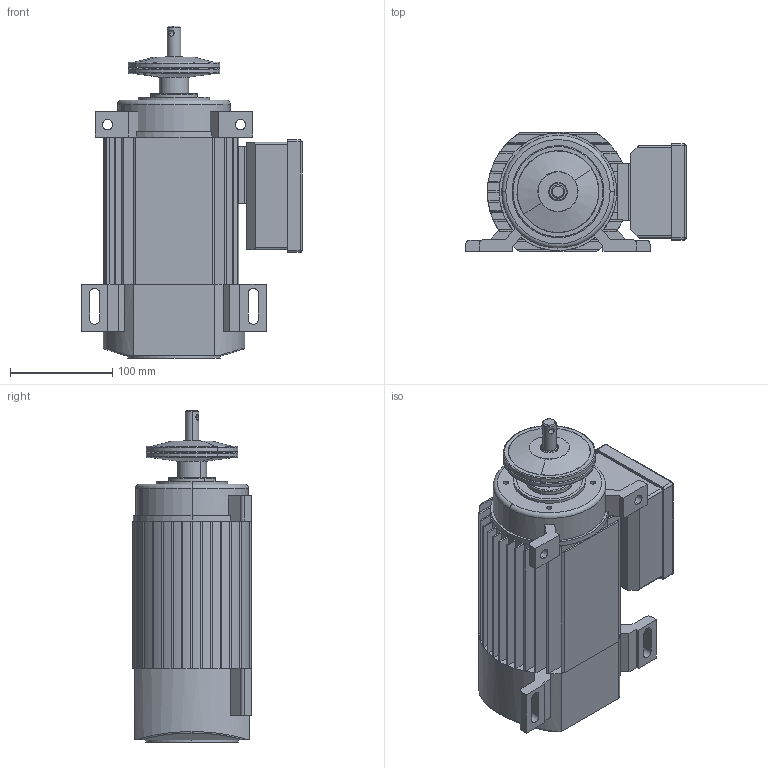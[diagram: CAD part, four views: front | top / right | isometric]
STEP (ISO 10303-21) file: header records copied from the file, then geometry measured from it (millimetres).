
FILE_DESCRIPTION (( 'STEP AP203' ), '1' );
FILE_NAME ('KSE_58A2.STEP', '2018-10-17T06:44:02', ( '' ), ( '' ), 'SwSTEP 2.0', 'SolidWorks 2012', '' );
FILE_SCHEMA (( 'CONFIG_CONTROL_DESIGN' ));
Length unit declared in the file: millimetre
Products named in the file (6): KSE_58A2; Klemmenkasten Typ KSE; Klemmenscheibe_D90; B_Lagerschild_58A2; A_Lagerschild_58A2; KSD_58A2_Stator
Assembly tree (5 placements, depth 2):
  KSE_58A2
    KSD_58A2_Stator
    A_Lagerschild_58A2
    B_Lagerschild_58A2
    Klemmenscheibe_D90
    Klemmenkasten Typ KSE
Bounding box: 215.25 x 116 x 324.5 mm (x, y, z)
Volume: 2241322.5 mm3; surface area: 400487.2 mm2
Topology: 6 solids, 6 shells, 307 faces, 799 edges, 509 vertices
Faces by surface type: plane 136, cylinder 129, cone 18, torus 16, bspline 4, sphere 4
Entity records: 10348 total; most frequent: CARTESIAN_POINT 2025, DIRECTION 1684, ORIENTED_EDGE 1574, EDGE_CURVE 787, AXIS2_PLACEMENT_3D 612, VERTEX_POINT 509, VECTOR 460, LINE 460
